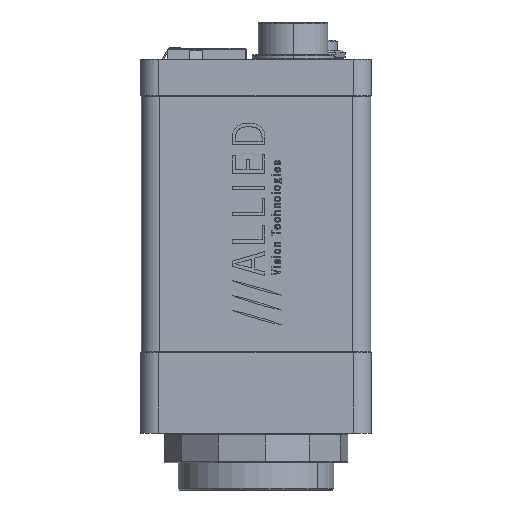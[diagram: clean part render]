
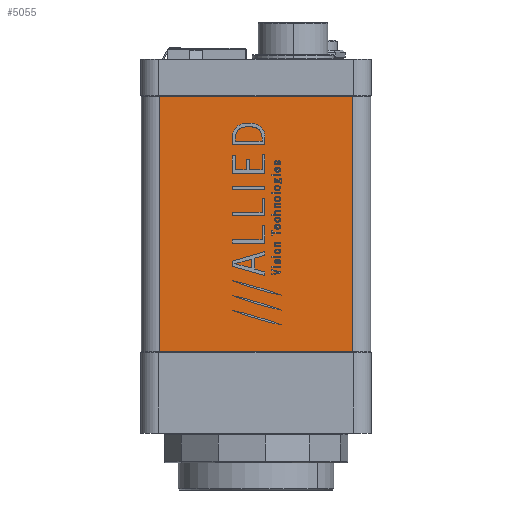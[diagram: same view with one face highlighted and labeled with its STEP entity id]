
A CAD part, left-side view. The second image highlights one B-rep face of the part: STEP entity #5055.
In plain terms, the highlighted planar face has unit normal (-1, 0, 0).
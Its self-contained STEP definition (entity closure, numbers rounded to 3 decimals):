
#5055 = ADVANCED_FACE ( 'NONE', ( #5550 ), #175971, .T. ) ;
#5550 = FACE_OUTER_BOUND ( 'NONE', #31546, .T. ) ;
#11496 = CARTESIAN_POINT ( 'NONE',  ( -25.714, 16.558, 0. ) ) ;
#11624 = CARTESIAN_POINT ( 'NONE',  ( -25.714, 16.558, 43.65 ) ) ;
#16790 = ORIENTED_EDGE ( 'NONE', *, *, #53726, .T. ) ;
#21572 = CARTESIAN_POINT ( 'NONE',  ( -25.714, 16.558, 108.336 ) ) ;
#31546 = EDGE_LOOP ( 'NONE', ( #192719, #51344, #16790, #149831 ) ) ;
#34610 = CARTESIAN_POINT ( 'NONE',  ( -25.714, -16.558, 43.65 ) ) ;
#41180 = EDGE_CURVE ( 'NONE', #149837, #146440, #151135, .T. ) ;
#49790 = VECTOR ( 'NONE', #167637, 1000. ) ;
#51344 = ORIENTED_EDGE ( 'NONE', *, *, #41180, .F. ) ;
#53726 = EDGE_CURVE ( 'NONE', #149837, #146172, #80830, .T. ) ;
#54747 = LINE ( 'NONE', #166331, #49790 ) ;
#60871 = CARTESIAN_POINT ( 'NONE',  ( -25.714, -16.558, 0. ) ) ;
#68883 = DIRECTION ( 'NONE',  ( 0., 1., 0. ) ) ;
#80830 = LINE ( 'NONE', #140630, #199076 ) ;
#90737 = VERTEX_POINT ( 'NONE', #11624 ) ;
#113408 = EDGE_CURVE ( 'NONE', #146440, #90737, #173274, .T. ) ;
#140354 = DIRECTION ( 'NONE',  ( 0., 0., 1. ) ) ;
#140630 = CARTESIAN_POINT ( 'NONE',  ( -25.714, -16.558, 108.336 ) ) ;
#146172 = VERTEX_POINT ( 'NONE', #34610 ) ;
#146440 = VERTEX_POINT ( 'NONE', #11496 ) ;
#149831 = ORIENTED_EDGE ( 'NONE', *, *, #174202, .F. ) ;
#149837 = VERTEX_POINT ( 'NONE', #192629 ) ;
#151135 = LINE ( 'NONE', #60871, #191263 ) ;
#166331 = CARTESIAN_POINT ( 'NONE',  ( -25.714, 16.558, 43.65 ) ) ;
#167637 = DIRECTION ( 'NONE',  ( 0., -1., 0. ) ) ;
#168541 = VECTOR ( 'NONE', #178933, 1000. ) ;
#173274 = LINE ( 'NONE', #21572, #168541 ) ;
#174202 = EDGE_CURVE ( 'NONE', #90737, #146172, #54747, .T. ) ;
#174277 = DIRECTION ( 'NONE',  ( 0., 0., 1. ) ) ;
#174450 = DIRECTION ( 'NONE',  ( -1., 0., 0. ) ) ;
#174689 = CARTESIAN_POINT ( 'NONE',  ( -25.714, 16.558, 108.336 ) ) ;
#175971 = PLANE ( 'NONE',  #195346 ) ;
#178933 = DIRECTION ( 'NONE',  ( 0., 0., 1. ) ) ;
#191263 = VECTOR ( 'NONE', #68883, 1000. ) ;
#192629 = CARTESIAN_POINT ( 'NONE',  ( -25.714, -16.558, 0. ) ) ;
#192719 = ORIENTED_EDGE ( 'NONE', *, *, #113408, .F. ) ;
#195346 = AXIS2_PLACEMENT_3D ( 'NONE', #174689, #174450, #174277 ) ;
#199076 = VECTOR ( 'NONE', #140354, 1000. ) ;
